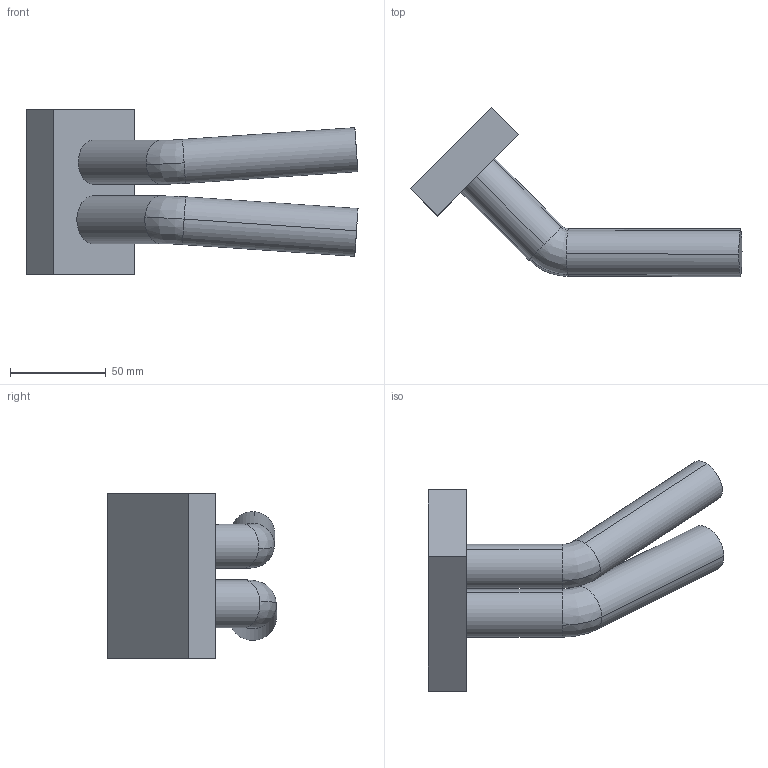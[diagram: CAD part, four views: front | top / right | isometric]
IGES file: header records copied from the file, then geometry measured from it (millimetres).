
Start section: IMSI TurboCAD v14.0
Global section: author: NULL; organization: NULL; date: 20250711.181021; units: millimetre
Bounding box: 173 x 88.24 x 86 mm (x, y, z)
Surface area: 39225.7 mm2 (no closed solid volume)
Topology: 0 solids, 0 shells, 20 faces, 99 edges, 102 vertices
Faces by surface type: revolution 12, extrusion 8
